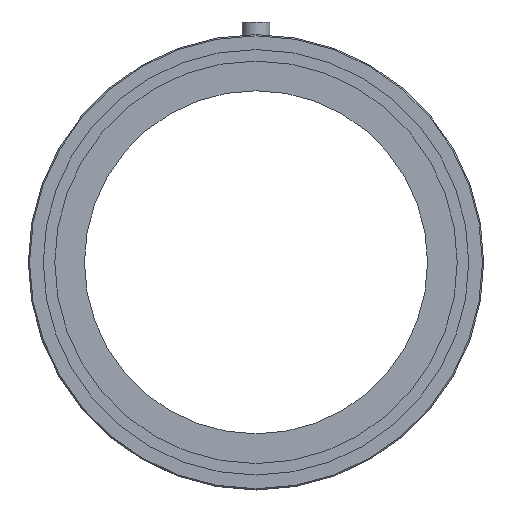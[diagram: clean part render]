
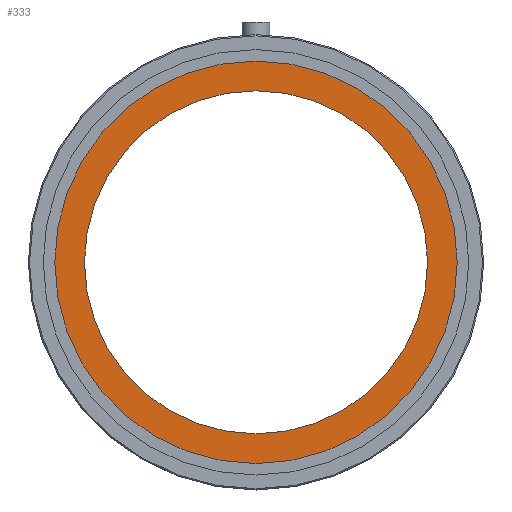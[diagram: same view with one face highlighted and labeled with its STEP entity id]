
A CAD part, front view. The second image highlights one B-rep face of the part: STEP entity #333.
In plain terms, the highlighted planar face has unit normal (0, -1, 0).
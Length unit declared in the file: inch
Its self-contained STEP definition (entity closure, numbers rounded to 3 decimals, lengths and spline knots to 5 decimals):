
#110 = DIRECTION ( 'NONE',  ( 0., 1., 0. ) ) ;
#112 = CARTESIAN_POINT ( 'NONE',  ( 0., 0.03, 0. ) ) ;
#132 = DIRECTION ( 'NONE',  ( 0., 0., 1. ) ) ;
#167 = CARTESIAN_POINT ( 'NONE',  ( 0., 0.03, -0.8065 ) ) ;
#168 = CARTESIAN_POINT ( 'NONE',  ( 0., 0.03, 0.6875 ) ) ;
#204 = VERTEX_POINT ( 'NONE', #167 ) ;
#205 = VERTEX_POINT ( 'NONE', #168 ) ;
#207 = CARTESIAN_POINT ( 'NONE',  ( 0., 0.03, 0. ) ) ;
#213 = DIRECTION ( 'NONE',  ( 0., 0., 1. ) ) ;
#217 = PLANE ( 'NONE',  #951 ) ;
#253 = DIRECTION ( 'NONE',  ( 0., 1., 0. ) ) ;
#298 = AXIS2_PLACEMENT_3D ( 'NONE', #1368, #1370, #1430 ) ;
#313 = DIRECTION ( 'NONE',  ( 0., 0., 1. ) ) ;
#315 = CARTESIAN_POINT ( 'NONE',  ( 0., 0.03, 0. ) ) ;
#318 = DIRECTION ( 'NONE',  ( 0., 1., 0. ) ) ;
#320 = DIRECTION ( 'NONE',  ( 0., 1., 0. ) ) ;
#321 = DIRECTION ( 'NONE',  ( 0., 0., 1. ) ) ;
#322 = CARTESIAN_POINT ( 'NONE',  ( 0., 0.03, 0. ) ) ;
#333 = ADVANCED_FACE ( 'NONE', ( #1055, #1056 ), #217, .F. ) ;
#387 = ORIENTED_EDGE ( 'NONE', *, *, #1563, .T. ) ;
#395 = ORIENTED_EDGE ( 'NONE', *, *, #1593, .T. ) ;
#402 = ORIENTED_EDGE ( 'NONE', *, *, #1564, .F. ) ;
#406 = ORIENTED_EDGE ( 'NONE', *, *, #1546, .F. ) ;
#662 = CARTESIAN_POINT ( 'NONE',  ( 0., 0.03, 0.8065 ) ) ;
#671 = CARTESIAN_POINT ( 'NONE',  ( 0., 0.03, -0.6875 ) ) ;
#906 = VERTEX_POINT ( 'NONE', #662 ) ;
#910 = VERTEX_POINT ( 'NONE', #671 ) ;
#951 = AXIS2_PLACEMENT_3D ( 'NONE', #207, #253, #213 ) ;
#974 = AXIS2_PLACEMENT_3D ( 'NONE', #112, #110, #132 ) ;
#992 = AXIS2_PLACEMENT_3D ( 'NONE', #315, #318, #313 ) ;
#993 = AXIS2_PLACEMENT_3D ( 'NONE', #322, #320, #321 ) ;
#1035 = EDGE_LOOP ( 'NONE', ( #387, #395 ) ) ;
#1054 = EDGE_LOOP ( 'NONE', ( #402, #406 ) ) ;
#1055 = FACE_BOUND ( 'NONE', #1035, .T. ) ;
#1056 = FACE_OUTER_BOUND ( 'NONE', #1054, .T. ) ;
#1273 = CIRCLE ( 'NONE', #974, 0.8065 ) ;
#1299 = CIRCLE ( 'NONE', #992, 0.6875 ) ;
#1330 = CIRCLE ( 'NONE', #993, 0.8065 ) ;
#1340 = CIRCLE ( 'NONE', #298, 0.6875 ) ;
#1368 = CARTESIAN_POINT ( 'NONE',  ( 0., 0.03, 0. ) ) ;
#1370 = DIRECTION ( 'NONE',  ( 0., 1., 0. ) ) ;
#1430 = DIRECTION ( 'NONE',  ( 0., 0., 1. ) ) ;
#1546 = EDGE_CURVE ( 'NONE', #906, #204, #1273, .T. ) ;
#1563 = EDGE_CURVE ( 'NONE', #910, #205, #1299, .T. ) ;
#1564 = EDGE_CURVE ( 'NONE', #204, #906, #1330, .T. ) ;
#1593 = EDGE_CURVE ( 'NONE', #205, #910, #1340, .T. ) ;
